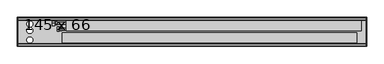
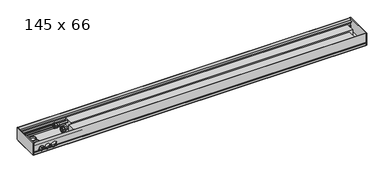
"""IFC4 building model written with IfcOpenShell, lengths in millimetres: proxy geometry, Mohlenhof_Внутрипольный конвектор_QSKM : 145 x 66."""

from ifc_helpers import new_model, si_unit, point, frame, frame_2d, origin, place, context, project, spatial, polyline, circle_curve, ellipse_curve, trimmed, segment, composite_curve, outline, extrude, source, transform, mapped, element, save
from ifc_brep_helpers import plane_surface, cylinder_surface, revolved_surface, advanced_brep


def proxy_145_x_66_e9fb857a(model_context):
    return source(origin(), model_context, "Body", "SolidModel", [
        extrude(outline(composite_curve([segment(trimmed(circle_curve(frame_2d((0.0, -223.5)), 4.5), [point((-4.5, -223.5))], [point((4.5, -223.5))], False, "CARTESIAN"), True, "CONTINUOUS"), segment(trimmed(circle_curve(frame_2d((0.0, -223.5)), 4.5), [point((4.5, -223.5))], [point((-4.5, -223.5))], False, "CARTESIAN"), True, "CONTINUOUS")], self_intersect=False)), frame((0.0, 0.0, -79.0), z_axis=(0.0, 0.0, 1.0), x_axis=(1.0, 0.0, 0.0)), (0.0, 0.0, 1.0), 7.0),
        extrude(outline(composite_curve([segment(trimmed(circle_curve(frame_2d((0.0, -223.5)), 4.0), [point((-4.0, -223.5))], [point((4.0, -223.5))], False, "CARTESIAN"), True, "CONTINUOUS"), segment(trimmed(circle_curve(frame_2d((0.0, -223.5)), 4.0), [point((4.0, -223.5))], [point((-4.0, -223.5))], False, "CARTESIAN"), True, "CONTINUOUS")], self_intersect=False)), frame((0.0, 0.0, -72.0), z_axis=(0.0, 0.0, 1.0), x_axis=(1.0, 0.0, 0.0)), (0.0, 0.0, 1.0), 1.5),
        extrude(outline(composite_curve([segment(trimmed(circle_curve(frame_2d((0.0, -121.5)), 4.5), [point((-4.5, -121.5))], [point((4.5, -121.5))], False, "CARTESIAN"), True, "CONTINUOUS"), segment(trimmed(circle_curve(frame_2d((0.0, -121.5)), 4.5), [point((4.5, -121.5))], [point((-4.5, -121.5))], False, "CARTESIAN"), True, "CONTINUOUS")], self_intersect=False)), frame((0.0, 0.0, -79.0), z_axis=(0.0, 0.0, 1.0), x_axis=(1.0, 0.0, 0.0)), (0.0, 0.0, 1.0), 7.0),
        extrude(outline(composite_curve([segment(trimmed(circle_curve(frame_2d((0.0, -121.5)), 4.0), [point((-4.0, -121.5))], [point((4.0, -121.5))], False, "CARTESIAN"), True, "CONTINUOUS"), segment(trimmed(circle_curve(frame_2d((0.0, -121.5)), 4.0), [point((4.0, -121.5))], [point((-4.0, -121.5))], False, "CARTESIAN"), True, "CONTINUOUS")], self_intersect=False)), frame((0.0, 0.0, -72.0), z_axis=(0.0, 0.0, 1.0), x_axis=(1.0, 0.0, 0.0)), (0.0, 0.0, 1.0), 1.5),
        advanced_brep(
        [(-665.0, -158.0, -47.5), (-665.0, -146.0, -47.5), (-665.0, -170.0, -47.5), (-652.5, -165.5, -47.5), (-652.5, -150.5, -47.5), (-652.5, -158.0, -47.5), (-660.0, -165.5, -47.5), (-660.0, -150.5, -47.5)],
        [
            (0, 1),
            (1, 2, circle_curve(frame((-665.0, -158.0, -47.5), z_axis=(-1.0, 0.0, 0.0), x_axis=(0.0, 1.0, 0.0)), 12.0)),
            (2, 0),
            (2, 1, circle_curve(frame((-665.0, -158.0, -47.5), z_axis=(-1.0, 0.0, 0.0), x_axis=(0.0, 1.0, 0.0)), 12.0)),
            (3, 4, circle_curve(frame((-652.5, -158.0, -47.5), z_axis=(1.0, 0.0, 0.0), x_axis=(0.0, 1.0, 0.0)), 7.5)),
            (4, 5),
            (5, 3),
            (4, 3, circle_curve(frame((-652.5, -158.0, -47.5), z_axis=(1.0, 0.0, 0.0), x_axis=(0.0, 1.0, 0.0)), 7.5)),
            (6, 7, circle_curve(frame((-660.0, -158.0, -47.5), z_axis=(1.0, 0.0, 0.0), x_axis=(0.0, 1.0, 0.0)), 7.5)),
            (7, 4),
            (3, 6),
            (7, 6, circle_curve(frame((-660.0, -158.0, -47.5), z_axis=(1.0, 0.0, 0.0), x_axis=(0.0, 1.0, 0.0)), 7.5)),
            (1, 7),
            (6, 2),
        ],
        [
            plane_surface(frame((-665.0, -158.0, -47.5), z_axis=(-1.0, 0.0, 0.0), x_axis=(0.0, 1.0, 0.0))),
            plane_surface(frame((-652.5, -158.0, -47.5), z_axis=(1.0, 0.0, 0.0), x_axis=(0.0, 1.0, 0.0))),
            cylinder_surface(frame((-665.0, -158.0, -47.5), z_axis=(-1.0, 0.0, 0.0), x_axis=(0.0, 1.0, 0.0)), 7.5),
            revolved_surface(polyline([(-660.0, -150.5, -47.5), (-665.0, -146.0, -47.5)]), (-665.0, -158.0, -47.5), (-1.0, 0.0, 0.0)),
        ],
        [
            (0, [[1, 2, 3]]),
            (0, [[-3, 4, -1]]),
            (1, [[5, 6, 7]]),
            (1, [[8, -7, -6]]),
            (2, [[9, 10, -5, 11]]),
            (2, [[12, -11, -8, -10]]),
            (3, [[-2, 13, -9, 14]]),
            (3, [[-4, -14, -12, -13]]),
        ],
    ),
        extrude(outline(polyline([(-158.0, -33.6435935), (-146.0, -40.5717968), (-146.0, -54.4282032), (-158.0, -61.3564065), (-170.0, -54.4282032), (-170.0, -40.5717968), (-158.0, -33.6435935)]), holes=[composite_curve([segment(trimmed(circle_curve(frame_2d((-158.0, -47.5)), 8.5), [point((-149.5, -47.5))], [point((-166.5, -47.5))], True, "CARTESIAN"), True, "CONTINUOUS"), segment(trimmed(circle_curve(frame_2d((-158.0, -47.5)), 8.5), [point((-166.5, -47.5))], [point((-149.5, -47.5))], True, "CARTESIAN"), True, "CONTINUOUS")], self_intersect=False)]), frame((-676.0, 0.0, 0.0), z_axis=(1.0, 0.0, 0.0), x_axis=(0.0, 1.0, 0.0)), (0.0, 0.0, 1.0), 11.0),
        advanced_brep(
        [(-689.0, -130.0, -34.5), (-689.0, -118.0, -34.5), (-689.0, -142.0, -34.5), (-676.5, -137.5, -34.5), (-676.5, -122.5, -34.5), (-676.5, -130.0, -34.5), (-684.0, -137.5, -34.5), (-684.0, -122.5, -34.5)],
        [
            (0, 1),
            (1, 2, circle_curve(frame((-689.0, -130.0, -34.5), z_axis=(-1.0, 0.0, 0.0), x_axis=(0.0, 1.0, 0.0)), 12.0)),
            (2, 0),
            (2, 1, circle_curve(frame((-689.0, -130.0, -34.5), z_axis=(-1.0, 0.0, 0.0), x_axis=(0.0, 1.0, 0.0)), 12.0)),
            (3, 4, circle_curve(frame((-676.5, -130.0, -34.5), z_axis=(1.0, 0.0, 0.0), x_axis=(0.0, 1.0, 0.0)), 7.5)),
            (4, 5),
            (5, 3),
            (4, 3, circle_curve(frame((-676.5, -130.0, -34.5), z_axis=(1.0, 0.0, 0.0), x_axis=(0.0, 1.0, 0.0)), 7.5)),
            (6, 7, circle_curve(frame((-684.0, -130.0, -34.5), z_axis=(1.0, 0.0, 0.0), x_axis=(0.0, 1.0, 0.0)), 7.5)),
            (7, 4),
            (3, 6),
            (7, 6, circle_curve(frame((-684.0, -130.0, -34.5), z_axis=(1.0, 0.0, 0.0), x_axis=(0.0, 1.0, 0.0)), 7.5)),
            (1, 7),
            (6, 2),
        ],
        [
            plane_surface(frame((-689.0, -130.0, -34.5), z_axis=(-1.0, 0.0, 0.0), x_axis=(0.0, 1.0, 0.0))),
            plane_surface(frame((-676.5, -130.0, -34.5), z_axis=(1.0, 0.0, 0.0), x_axis=(0.0, 1.0, 0.0))),
            cylinder_surface(frame((-689.0, -130.0, -34.5), z_axis=(-1.0, 0.0, 0.0), x_axis=(0.0, 1.0, 0.0)), 7.5),
            revolved_surface(polyline([(-684.0, -122.5, -34.5), (-689.0, -118.0, -34.5)]), (-689.0, -130.0, -34.5), (-1.0, 0.0, 0.0)),
        ],
        [
            (0, [[1, 2, 3]]),
            (0, [[-3, 4, -1]]),
            (1, [[5, 6, 7]]),
            (1, [[8, -7, -6]]),
            (2, [[9, 10, -5, 11]]),
            (2, [[12, -11, -8, -10]]),
            (3, [[-2, 13, -9, 14]]),
            (3, [[-4, -14, -12, -13]]),
        ],
    ),
        extrude(outline(polyline([(-130.0, -20.6435935), (-118.0, -27.5717968), (-118.0, -41.4282032), (-130.0, -48.3564065), (-142.0, -41.4282032), (-142.0, -27.5717968), (-130.0, -20.6435935)]), holes=[composite_curve([segment(trimmed(circle_curve(frame_2d((-130.0, -34.5)), 8.5), [point((-121.5, -34.5))], [point((-138.5, -34.5))], True, "CARTESIAN"), True, "CONTINUOUS"), segment(trimmed(circle_curve(frame_2d((-130.0, -34.5)), 8.5), [point((-138.5, -34.5))], [point((-121.5, -34.5))], True, "CARTESIAN"), True, "CONTINUOUS")], self_intersect=False)]), frame((-700.0, 0.0, 0.0), z_axis=(1.0, 0.0, 0.0), x_axis=(0.0, 1.0, 0.0)), (0.0, 0.0, 1.0), 11.0),
        extrude(outline(composite_curve([segment(trimmed(circle_curve(frame_2d((-850.0, -223.5)), 4.5), [point((-854.5, -223.5))], [point((-845.5, -223.5))], False, "CARTESIAN"), True, "CONTINUOUS"), segment(trimmed(circle_curve(frame_2d((-850.0, -223.5)), 4.5), [point((-845.5, -223.5))], [point((-854.5, -223.5))], False, "CARTESIAN"), True, "CONTINUOUS")], self_intersect=False)), frame((0.0, 0.0, -79.0), z_axis=(0.0, 0.0, 1.0), x_axis=(1.0, 0.0, 0.0)), (0.0, 0.0, 1.0), 7.0),
        extrude(outline(composite_curve([segment(trimmed(circle_curve(frame_2d((-850.0, -223.5)), 4.0), [point((-854.0, -223.5))], [point((-846.0, -223.5))], False, "CARTESIAN"), True, "CONTINUOUS"), segment(trimmed(circle_curve(frame_2d((-850.0, -223.5)), 4.0), [point((-846.0, -223.5))], [point((-854.0, -223.5))], False, "CARTESIAN"), True, "CONTINUOUS")], self_intersect=False)), frame((0.0, 0.0, -72.0), z_axis=(0.0, 0.0, 1.0), x_axis=(1.0, 0.0, 0.0)), (0.0, 0.0, 1.0), 1.5),
        extrude(outline(composite_curve([segment(trimmed(circle_curve(frame_2d((-850.0, -121.5)), 4.5), [point((-854.5, -121.5))], [point((-845.5, -121.5))], False, "CARTESIAN"), True, "CONTINUOUS"), segment(trimmed(circle_curve(frame_2d((-850.0, -121.5)), 4.5), [point((-845.5, -121.5))], [point((-854.5, -121.5))], False, "CARTESIAN"), True, "CONTINUOUS")], self_intersect=False)), frame((0.0, 0.0, -79.0), z_axis=(0.0, 0.0, 1.0), x_axis=(1.0, 0.0, 0.0)), (0.0, 0.0, 1.0), 7.0),
        extrude(outline(composite_curve([segment(trimmed(circle_curve(frame_2d((-850.0, -121.5)), 4.0), [point((-854.0, -121.5))], [point((-846.0, -121.5))], False, "CARTESIAN"), True, "CONTINUOUS"), segment(trimmed(circle_curve(frame_2d((-850.0, -121.5)), 4.0), [point((-846.0, -121.5))], [point((-854.0, -121.5))], False, "CARTESIAN"), True, "CONTINUOUS")], self_intersect=False)), frame((0.0, 0.0, -72.0), z_axis=(0.0, 0.0, 1.0), x_axis=(1.0, 0.0, 0.0)), (0.0, 0.0, 1.0), 1.5),
        extrude(outline(composite_curve([segment(trimmed(circle_curve(frame_2d((850.0, -223.5)), 4.5), [point((845.5, -223.5))], [point((854.5, -223.5))], False, "CARTESIAN"), True, "CONTINUOUS"), segment(trimmed(circle_curve(frame_2d((850.0, -223.5)), 4.5), [point((854.5, -223.5))], [point((845.5, -223.5))], False, "CARTESIAN"), True, "CONTINUOUS")], self_intersect=False)), frame((0.0, 0.0, -79.0), z_axis=(0.0, 0.0, 1.0), x_axis=(1.0, 0.0, 0.0)), (0.0, 0.0, 1.0), 7.0),
        extrude(outline(composite_curve([segment(trimmed(circle_curve(frame_2d((850.0, -223.5)), 4.0), [point((846.0, -223.5))], [point((854.0, -223.5))], False, "CARTESIAN"), True, "CONTINUOUS"), segment(trimmed(circle_curve(frame_2d((850.0, -223.5)), 4.0), [point((854.0, -223.5))], [point((846.0, -223.5))], False, "CARTESIAN"), True, "CONTINUOUS")], self_intersect=False)), frame((0.0, 0.0, -72.0), z_axis=(0.0, 0.0, 1.0), x_axis=(1.0, 0.0, 0.0)), (0.0, 0.0, 1.0), 1.5),
        extrude(outline(composite_curve([segment(trimmed(circle_curve(frame_2d((850.0, -121.5)), 4.5), [point((845.5, -121.5))], [point((854.5, -121.5))], False, "CARTESIAN"), True, "CONTINUOUS"), segment(trimmed(circle_curve(frame_2d((850.0, -121.5)), 4.5), [point((854.5, -121.5))], [point((845.5, -121.5))], False, "CARTESIAN"), True, "CONTINUOUS")], self_intersect=False)), frame((0.0, 0.0, -79.0), z_axis=(0.0, 0.0, 1.0), x_axis=(1.0, 0.0, 0.0)), (0.0, 0.0, 1.0), 7.0),
        extrude(outline(composite_curve([segment(trimmed(circle_curve(frame_2d((850.0, -121.5)), 4.0), [point((846.0, -121.5))], [point((854.0, -121.5))], False, "CARTESIAN"), True, "CONTINUOUS"), segment(trimmed(circle_curve(frame_2d((850.0, -121.5)), 4.0), [point((854.0, -121.5))], [point((846.0, -121.5))], False, "CARTESIAN"), True, "CONTINUOUS")], self_intersect=False)), frame((0.0, 0.0, -72.0), z_axis=(0.0, 0.0, 1.0), x_axis=(1.0, 0.0, 0.0)), (0.0, 0.0, 1.0), 1.5),
        extrude(outline(polyline([(825.0, -175.87), (825.0, -227.18), (-650.0, -227.18), (-650.0, -175.87), (825.0, -175.87)])), frame((0.0, 0.0, -62.5), z_axis=(0.0, 0.0, 1.0), x_axis=(1.0, 0.0, 0.0)), (0.0, 0.0, 1.0), 43.62),
        extrude(outline(composite_curve([segment(trimmed(circle_curve(frame_2d((-158.0, -47.5)), 5.0), [point((-163.0, -47.5))], [point((-153.0, -47.5))], False, "CARTESIAN"), True, "CONTINUOUS"), segment(trimmed(circle_curve(frame_2d((-158.0, -47.5)), 5.0), [point((-153.0, -47.5))], [point((-163.0, -47.5))], False, "CARTESIAN"), True, "CONTINUOUS")], self_intersect=False)), frame((-676.0, 0.0, 0.0), z_axis=(1.0, 0.0, 0.0), x_axis=(0.0, 1.0, 0.0)), (0.0, 0.0, 1.0), 46.0),
        extrude(outline(composite_curve([segment(trimmed(circle_curve(frame_2d((-130.0, -34.5)), 5.0), [point((-135.0, -34.5))], [point((-125.0, -34.5))], False, "CARTESIAN"), True, "CONTINUOUS"), segment(trimmed(circle_curve(frame_2d((-130.0, -34.5)), 5.0), [point((-125.0, -34.5))], [point((-135.0, -34.5))], False, "CARTESIAN"), True, "CONTINUOUS")], self_intersect=False)), frame((-700.0, 0.0, 0.0), z_axis=(1.0, 0.0, 0.0), x_axis=(0.0, 1.0, 0.0)), (0.0, 0.0, 1.0), 70.0),
        advanced_brep(
        [(873.0, -245.0, -48.5473602), (873.0, -243.5, -49.2468216), (873.0, -242.5, -49.2468216), (873.0, -242.5, -46.0008038), (873.0, -240.0, -46.0008038), (873.0, -240.0, -56.5008038), (873.0, -242.5, -56.5008038), (873.0, -242.5, -53.2468216), (873.0, -243.5, -53.2468216), (873.0, -245.0, -53.9462831), (873.0, -245.0, -66.5), (873.0, -241.0, -66.5), (873.0, -241.0, -65.2), (873.0, -243.0, -65.2), (873.0, -243.0, -62.5), (873.0, -232.0, -62.5), (873.0, -232.0, -54.9172677), (873.0, -233.4172677, -53.5), (873.0, -237.0, -53.5), (873.0, -237.0, -45.91), (873.0, -239.0, -43.91), (873.0, -239.0, -39.5), (873.0, -240.0, -39.5), (873.0, -240.0, -43.5), (873.0, -242.4956439, -43.5), (873.0, -242.4956439, -23.0), (873.0, -240.0, -23.0), (873.0, -240.0, -27.0), (873.0, -239.0, -27.0), (873.0, -239.0, -17.0), (873.0, -233.3956439, -17.0), (873.0, -233.3956439, -15.0), (873.0, -243.4, -15.0), (873.0, -243.4, 0.0), (873.0, -245.0, 0.0), (-873.0, -245.0, -48.5473602), (-873.0, -245.0, 0.0), (-873.0, -243.4, 0.0), (-873.0, -243.4, -15.0), (-873.0, -233.3956439, -15.0), (-873.0, -233.3956439, -17.0), (-873.0, -239.0, -17.0), (-873.0, -239.0, -27.0), (-873.0, -240.0, -27.0), (-873.0, -240.0, -23.0), (-873.0, -242.4956439, -23.0), (-873.0, -242.4956439, -43.5), (-873.0, -240.0, -43.5), (-873.0, -240.0, -39.5), (-873.0, -239.0, -39.5), (-873.0, -239.0, -43.91), (-873.0, -237.0, -45.91), (-873.0, -237.0, -53.5), (-873.0, -233.4172677, -53.5), (-873.0, -232.0, -54.9172677), (-873.0, -232.0, -62.5), (-873.0, -243.0, -62.5), (-873.0, -243.0, -65.2), (-873.0, -241.0, -65.2), (-873.0, -241.0, -66.5), (-873.0, -245.0, -66.5), (-873.0, -245.0, -53.9462831), (-873.0, -243.5, -53.2468216), (-873.0, -242.5, -53.2468216), (-873.0, -242.5, -56.5008038), (-873.0, -240.0, -56.5008038), (-873.0, -240.0, -46.0008038), (-873.0, -242.5, -46.0008038), (-873.0, -242.5, -49.2468216), (-873.0, -243.5, -49.2468216), (-753.7585985, -245.0, -48.5473602), (-754.155283, -243.5, -49.2468216), (-845.844717, -243.5, -49.2468216), (-846.2414015, -245.0, -48.5473602), (-813.2414015, -245.0, -48.5473602), (-819.7585985, -245.0, -48.5473602), (-820.155283, -243.5, -49.2468216), (-812.844717, -243.5, -49.2468216), (-780.2414015, -245.0, -48.5473602), (-786.7585985, -245.0, -48.5473602), (-787.155283, -243.5, -49.2468216), (-779.844717, -243.5, -49.2468216), (-754.155283, -242.5, -49.2468216), (-845.844717, -242.5, -49.2468216), (-820.155283, -242.5, -49.2468216), (-812.844717, -242.5, -49.2468216), (-787.155283, -242.5, -49.2468216), (-779.844717, -242.5, -49.2468216), (-752.6911648, -242.5, -46.0008038), (-847.3088352, -242.5, -46.0008038), (-818.6911648, -242.5, -46.0008038), (-814.3088352, -242.5, -46.0008038), (-785.6911648, -242.5, -46.0008038), (-781.3088352, -242.5, -46.0008038), (-752.6911648, -240.0, -46.0008038), (-847.3088352, -240.0, -46.0008038), (-818.6911648, -240.0, -46.0008038), (-814.3088352, -240.0, -46.0008038), (-785.6911648, -240.0, -46.0008038), (-781.3088352, -240.0, -46.0008038), (-842.328032, -242.5, -53.2468216), (-823.671968, -242.5, -53.2468216), (-809.328032, -242.5, -53.2468216), (-790.671968, -242.5, -53.2468216), (-776.328032, -242.5, -53.2468216), (-757.671968, -242.5, -53.2468216), (-757.671968, -243.5, -53.2468216), (-842.328032, -243.5, -53.2468216), (-823.671968, -243.5, -53.2468216), (-809.328032, -243.5, -53.2468216), (-790.671968, -243.5, -53.2468216), (-776.328032, -243.5, -53.2468216), (-758.6280208, -245.0, -53.9462831), (-841.3719792, -245.0, -53.9462831), (-824.6280208, -245.0, -53.9462831), (-808.3719792, -245.0, -53.9462831), (-791.6280208, -245.0, -53.9462831), (-775.3719792, -245.0, -53.9462831), (-839.7064841, -232.0, -54.9172677), (-826.2935159, -232.0, -54.9172677), (-806.7064841, -232.0, -54.9172677), (-793.2935159, -232.0, -54.9172677), (-773.7064841, -232.0, -54.9172677), (-760.2935159, -232.0, -54.9172677), (-758.0, -233.4172677, -53.5), (-842.0, -233.4172677, -53.5), (-824.0, -233.4172677, -53.5), (-809.0, -233.4172677, -53.5), (-791.0, -233.4172677, -53.5), (-776.0, -233.4172677, -53.5), (-758.0, -237.0, -53.5), (-842.0, -237.0, -53.5), (-824.0, -237.0, -53.5), (-809.0, -237.0, -53.5), (-791.0, -237.0, -53.5), (-776.0, -237.0, -53.5), (-752.6629187, -237.0, -45.91), (-847.3370813, -237.0, -45.91), (-818.6629187, -237.0, -45.91), (-814.3370813, -237.0, -45.91), (-785.6629187, -237.0, -45.91), (-781.3370813, -237.0, -45.91), (-752.1948691, -239.0, -43.91), (-847.8051309, -239.0, -43.91), (-818.1948691, -239.0, -43.91), (-814.8051309, -239.0, -43.91), (-785.1948691, -239.0, -43.91), (-781.8051309, -239.0, -43.91), (-752.0, -239.0, -41.5), (-752.1339313, -239.0, -39.5), (-847.8660687, -239.0, -39.5), (-848.0, -239.0, -41.5), (-818.0, -239.0, -41.5), (-818.1339313, -239.0, -39.5), (-814.8660687, -239.0, -39.5), (-815.0, -239.0, -41.5), (-785.0, -239.0, -41.5), (-785.1339313, -239.0, -39.5), (-781.8660687, -239.0, -39.5), (-782.0, -239.0, -41.5), (-752.1339313, -240.0, -39.5), (-847.8660687, -240.0, -39.5), (-818.1339313, -240.0, -39.5), (-814.8660687, -240.0, -39.5), (-785.1339313, -240.0, -39.5), (-781.8660687, -240.0, -39.5), (-752.0, -240.0, -41.5), (-752.1339313, -240.0, -43.5), (-847.8660687, -240.0, -43.5), (-848.0, -240.0, -41.5), (-818.0, -240.0, -41.5), (-818.1339313, -240.0, -43.5), (-814.8660687, -240.0, -43.5), (-815.0, -240.0, -41.5), (-785.0, -240.0, -41.5), (-785.1339313, -240.0, -43.5), (-781.8660687, -240.0, -43.5), (-782.0, -240.0, -41.5), (-752.1339313, -242.4956439, -43.5), (-847.8660687, -242.4956439, -43.5), (-818.1339313, -242.4956439, -43.5), (-814.8660687, -242.4956439, -43.5), (-785.1339313, -242.4956439, -43.5), (-781.8660687, -242.4956439, -43.5), (-752.0, -242.4956439, -41.5), (-782.0, -242.4956439, -41.5), (-785.0, -242.4956439, -41.5), (-815.0, -242.4956439, -41.5), (-818.0, -242.4956439, -41.5), (-848.0, -242.4956439, -41.5), (-836.8405729, -240.0, -27.0), (-829.1594271, -240.0, -27.0), (-803.8405729, -240.0, -27.0), (-796.1594271, -240.0, -27.0), (-770.8405729, -240.0, -27.0), (-763.1594271, -240.0, -27.0), (-763.1594271, -239.0, -27.0), (-836.8405729, -239.0, -27.0), (-829.1594271, -239.0, -27.0), (-803.8405729, -239.0, -27.0), (-796.1594271, -239.0, -27.0), (-770.8405729, -239.0, -27.0), (-848.0, -245.0, -41.5), (-818.0, -245.0, -41.5), (-815.0, -245.0, -41.5), (-785.0, -245.0, -41.5), (-782.0, -245.0, -41.5), (-752.0, -245.0, -41.5)],
        [
            (0, 1),
            (1, 2),
            (2, 3),
            (3, 4),
            (4, 5),
            (5, 6),
            (6, 7),
            (7, 8),
            (8, 9),
            (9, 10),
            (10, 11),
            (11, 12),
            (12, 13),
            (13, 14),
            (14, 15),
            (15, 16),
            (16, 17),
            (17, 18),
            (18, 19),
            (19, 20),
            (20, 21),
            (21, 22),
            (22, 23),
            (23, 24),
            (24, 25),
            (25, 26),
            (26, 27),
            (27, 28),
            (28, 29),
            (29, 30),
            (30, 31),
            (31, 32),
            (32, 33),
            (33, 34),
            (34, 0),
            (35, 36),
            (36, 37),
            (37, 38),
            (38, 39),
            (39, 40),
            (40, 41),
            (41, 42),
            (42, 43),
            (43, 44),
            (44, 45),
            (45, 46),
            (46, 47),
            (47, 48),
            (48, 49),
            (49, 50),
            (50, 51),
            (51, 52),
            (52, 53),
            (53, 54),
            (54, 55),
            (55, 56),
            (56, 57),
            (57, 58),
            (58, 59),
            (59, 60),
            (60, 61),
            (61, 62),
            (62, 63),
            (63, 64),
            (64, 65),
            (65, 66),
            (66, 67),
            (67, 68),
            (68, 69),
            (69, 35),
            (0, 70),
            (70, 71, ellipse_curve(frame((-767.0, -260.1131126, -41.5), z_axis=(0.0, 0.42261826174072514, 0.9063077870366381), x_axis=(0.0, -0.9063077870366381, 0.42261826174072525)), 35.4930237, 15.0)),
            (71, 1),
            (69, 72),
            (72, 73, ellipse_curve(frame((-833.0, -260.1131126, -41.5), z_axis=(0.0, 0.42261826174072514, 0.9063077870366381), x_axis=(0.0, -0.9063077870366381, 0.42261826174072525)), 35.4930237, 15.0)),
            (73, 35),
            (74, 75),
            (75, 76, ellipse_curve(frame((-833.0, -260.1131126, -41.5), z_axis=(0.0, 0.42261826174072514, 0.9063077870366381), x_axis=(0.0, -0.9063077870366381, 0.42261826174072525)), 35.4930237, 15.0)),
            (76, 77),
            (77, 74, ellipse_curve(frame((-800.0, -260.1131126, -41.5), z_axis=(0.0, 0.42261826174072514, 0.9063077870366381), x_axis=(0.0, -0.9063077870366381, 0.42261826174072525)), 35.4930237, 15.0)),
            (78, 79),
            (79, 80, ellipse_curve(frame((-800.0, -260.1131126, -41.5), z_axis=(0.0, 0.42261826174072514, 0.9063077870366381), x_axis=(0.0, -0.9063077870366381, 0.42261826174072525)), 35.4930237, 15.0)),
            (80, 81),
            (81, 78, ellipse_curve(frame((-767.0, -260.1131126, -41.5), z_axis=(0.0, 0.42261826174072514, 0.9063077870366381), x_axis=(0.0, -0.9063077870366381, 0.42261826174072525)), 35.4930237, 15.0)),
            (71, 82),
            (82, 2),
            (68, 83),
            (83, 72),
            (76, 84),
            (84, 85),
            (85, 77),
            (80, 86),
            (86, 87),
            (87, 81),
            (82, 88, circle_curve(frame((-767.0, -242.5, -41.5), z_axis=(0.0, -1.0, 0.0), x_axis=(1.0, 0.0, 0.0)), 15.0)),
            (88, 3),
            (67, 89),
            (89, 83, circle_curve(frame((-833.0, -242.5, -41.5), z_axis=(0.0, -1.0, 0.0), x_axis=(1.0, 0.0, 0.0)), 15.0)),
            (84, 90, circle_curve(frame((-833.0, -242.5, -41.5), z_axis=(0.0, -1.0, 0.0), x_axis=(1.0, 0.0, 0.0)), 15.0)),
            (90, 91),
            (91, 85, circle_curve(frame((-800.0, -242.5, -41.5), z_axis=(0.0, -1.0, 0.0), x_axis=(1.0, 0.0, 0.0)), 15.0)),
            (86, 92, circle_curve(frame((-800.0, -242.5, -41.5), z_axis=(0.0, -1.0, 0.0), x_axis=(1.0, 0.0, 0.0)), 15.0)),
            (92, 93),
            (93, 87, circle_curve(frame((-767.0, -242.5, -41.5), z_axis=(0.0, -1.0, 0.0), x_axis=(1.0, 0.0, 0.0)), 15.0)),
            (88, 94),
            (94, 4),
            (66, 95),
            (95, 89),
            (90, 96),
            (96, 97),
            (97, 91),
            (92, 98),
            (98, 99),
            (99, 93),
            (94, 99, circle_curve(frame((-767.0, -240.0, -41.5), z_axis=(0.0, 1.0, 0.0), x_axis=(1.0, 0.0, 0.0)), 15.0)),
            (98, 97, circle_curve(frame((-800.0, -240.0, -41.5), z_axis=(0.0, 1.0, 0.0), x_axis=(1.0, 0.0, 0.0)), 15.0)),
            (96, 95, circle_curve(frame((-833.0, -240.0, -41.5), z_axis=(0.0, 1.0, 0.0), x_axis=(1.0, 0.0, 0.0)), 15.0)),
            (65, 5),
            (64, 6),
            (63, 100),
            (100, 101, circle_curve(frame((-833.0, -242.5, -41.5), z_axis=(0.0, -1.0, 0.0), x_axis=(1.0, 0.0, 0.0)), 15.0)),
            (101, 102),
            (102, 103, circle_curve(frame((-800.0, -242.5, -41.5), z_axis=(0.0, -1.0, 0.0), x_axis=(1.0, 0.0, 0.0)), 15.0)),
            (103, 104),
            (104, 105, circle_curve(frame((-767.0, -242.5, -41.5), z_axis=(0.0, -1.0, 0.0), x_axis=(1.0, 0.0, 0.0)), 15.0)),
            (105, 7),
            (105, 106),
            (106, 8),
            (62, 107),
            (107, 100),
            (101, 108),
            (108, 109),
            (109, 102),
            (103, 110),
            (110, 111),
            (111, 104),
            (106, 112, ellipse_curve(frame((-767.0, -218.3088597, -41.5), z_axis=(0.0, 0.42261826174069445, -0.9063077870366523), x_axis=(0.0, -0.9063077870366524, -0.42261826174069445)), 35.4930237, 15.0)),
            (112, 9),
            (61, 113),
            (113, 107, ellipse_curve(frame((-833.0, -218.3088597, -41.5), z_axis=(0.0, 0.42261826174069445, -0.9063077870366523), x_axis=(0.0, -0.9063077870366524, -0.42261826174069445)), 35.4930237, 15.0)),
            (108, 114, ellipse_curve(frame((-833.0, -218.3088597, -41.5), z_axis=(0.0, 0.42261826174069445, -0.9063077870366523), x_axis=(0.0, -0.9063077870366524, -0.42261826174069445)), 35.4930237, 15.0)),
            (114, 115),
            (115, 109, ellipse_curve(frame((-800.0, -218.3088597, -41.5), z_axis=(0.0, 0.42261826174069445, -0.9063077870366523), x_axis=(0.0, -0.9063077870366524, -0.42261826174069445)), 35.4930237, 15.0)),
            (110, 116, ellipse_curve(frame((-800.0, -218.3088597, -41.5), z_axis=(0.0, 0.42261826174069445, -0.9063077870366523), x_axis=(0.0, -0.9063077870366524, -0.42261826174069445)), 35.4930237, 15.0)),
            (116, 117),
            (117, 111, ellipse_curve(frame((-767.0, -218.3088597, -41.5), z_axis=(0.0, 0.42261826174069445, -0.9063077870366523), x_axis=(0.0, -0.9063077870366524, -0.42261826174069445)), 35.4930237, 15.0)),
            (112, 117, circle_curve(frame((-767.0, -245.0, -41.5), z_axis=(0.0, 1.0, 0.0), x_axis=(1.0, 0.0, 0.0)), 15.0)),
            (116, 115, circle_curve(frame((-800.0, -245.0, -41.5), z_axis=(0.0, 1.0, 0.0), x_axis=(1.0, 0.0, 0.0)), 15.0)),
            (114, 113, circle_curve(frame((-833.0, -245.0, -41.5), z_axis=(0.0, 1.0, 0.0), x_axis=(1.0, 0.0, 0.0)), 15.0)),
            (60, 10),
            (59, 11),
            (58, 12),
            (57, 13),
            (56, 14),
            (55, 15),
            (54, 118),
            (118, 119, circle_curve(frame((-833.0, -232.0, -41.5), z_axis=(0.0, -1.0, 0.0), x_axis=(1.0, 0.0, 0.0)), 15.0)),
            (119, 120),
            (120, 121, circle_curve(frame((-800.0, -232.0, -41.5), z_axis=(0.0, -1.0, 0.0), x_axis=(1.0, 0.0, 0.0)), 15.0)),
            (121, 122),
            (122, 123, circle_curve(frame((-767.0, -232.0, -41.5), z_axis=(0.0, -1.0, 0.0), x_axis=(1.0, 0.0, 0.0)), 15.0)),
            (123, 16),
            (123, 124, ellipse_curve(frame((-767.0, -245.4172677, -41.5), z_axis=(0.0, -0.7071067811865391, -0.707106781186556), x_axis=(0.0, -0.7071067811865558, 0.7071067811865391)), 21.2132034, 15.0)),
            (124, 17),
            (53, 125),
            (125, 118, ellipse_curve(frame((-833.0, -245.4172677, -41.5), z_axis=(0.0, -0.7071067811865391, -0.707106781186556), x_axis=(0.0, -0.7071067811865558, 0.7071067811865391)), 21.2132034, 15.0)),
            (119, 126, ellipse_curve(frame((-833.0, -245.4172677, -41.5), z_axis=(0.0, -0.7071067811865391, -0.707106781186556), x_axis=(0.0, -0.7071067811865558, 0.7071067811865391)), 21.2132034, 15.0)),
            (126, 127),
            (127, 120, ellipse_curve(frame((-800.0, -245.4172677, -41.5), z_axis=(0.0, -0.7071067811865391, -0.707106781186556), x_axis=(0.0, -0.7071067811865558, 0.7071067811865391)), 21.2132034, 15.0)),
            (121, 128, ellipse_curve(frame((-800.0, -245.4172677, -41.5), z_axis=(0.0, -0.7071067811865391, -0.707106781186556), x_axis=(0.0, -0.7071067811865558, 0.7071067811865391)), 21.2132034, 15.0)),
            (128, 129),
            (129, 122, ellipse_curve(frame((-767.0, -245.4172677, -41.5), z_axis=(0.0, -0.7071067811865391, -0.707106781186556), x_axis=(0.0, -0.7071067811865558, 0.7071067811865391)), 21.2132034, 15.0)),
            (124, 130),
            (130, 18),
            (52, 131),
            (131, 125),
            (126, 132),
            (132, 133),
            (133, 127),
            (128, 134),
            (134, 135),
            (135, 129),
            (130, 136, circle_curve(frame((-767.0, -237.0, -41.5), z_axis=(0.0, -1.0, 0.0), x_axis=(1.0, 0.0, 0.0)), 15.0)),
            (136, 19),
            (51, 137),
            (137, 131, circle_curve(frame((-833.0, -237.0, -41.5), z_axis=(0.0, -1.0, 0.0), x_axis=(1.0, 0.0, 0.0)), 15.0)),
            (132, 138, circle_curve(frame((-833.0, -237.0, -41.5), z_axis=(0.0, -1.0, 0.0), x_axis=(1.0, 0.0, 0.0)), 15.0)),
            (138, 139),
            (139, 133, circle_curve(frame((-800.0, -237.0, -41.5), z_axis=(0.0, -1.0, 0.0), x_axis=(1.0, 0.0, 0.0)), 15.0)),
            (134, 140, circle_curve(frame((-800.0, -237.0, -41.5), z_axis=(0.0, -1.0, 0.0), x_axis=(1.0, 0.0, 0.0)), 15.0)),
            (140, 141),
            (141, 135, circle_curve(frame((-767.0, -237.0, -41.5), z_axis=(0.0, -1.0, 0.0), x_axis=(1.0, 0.0, 0.0)), 15.0)),
            (136, 142, ellipse_curve(frame((-767.0, -241.41, -41.5), z_axis=(0.0, -0.7071067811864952, -0.7071067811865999), x_axis=(0.0, -0.7071067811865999, 0.7071067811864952)), 21.2132034, 15.0)),
            (142, 20),
            (50, 143),
            (143, 137, ellipse_curve(frame((-833.0, -241.41, -41.5), z_axis=(0.0, -0.7071067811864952, -0.7071067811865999), x_axis=(0.0, -0.7071067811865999, 0.7071067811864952)), 21.2132034, 15.0)),
            (138, 144, ellipse_curve(frame((-833.0, -241.41, -41.5), z_axis=(0.0, -0.7071067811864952, -0.7071067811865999), x_axis=(0.0, -0.7071067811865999, 0.7071067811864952)), 21.2132034, 15.0)),
            (144, 145),
            (145, 139, ellipse_curve(frame((-800.0, -241.41, -41.5), z_axis=(0.0, -0.7071067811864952, -0.7071067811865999), x_axis=(0.0, -0.7071067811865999, 0.7071067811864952)), 21.2132034, 15.0)),
            (140, 146, ellipse_curve(frame((-800.0, -241.41, -41.5), z_axis=(0.0, -0.7071067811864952, -0.7071067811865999), x_axis=(0.0, -0.7071067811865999, 0.7071067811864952)), 21.2132034, 15.0)),
            (146, 147),
            (147, 141, ellipse_curve(frame((-767.0, -241.41, -41.5), z_axis=(0.0, -0.7071067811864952, -0.7071067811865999), x_axis=(0.0, -0.7071067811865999, 0.7071067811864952)), 21.2132034, 15.0)),
            (142, 148, circle_curve(frame((-767.0, -239.0, -41.5), z_axis=(0.0, -1.0, 0.0), x_axis=(1.0, 0.0, 0.0)), 15.0)),
            (148, 149, circle_curve(frame((-767.0, -239.0, -41.5), z_axis=(0.0, -1.0, 0.0), x_axis=(1.0, 0.0, 0.0)), 15.0)),
            (149, 21),
            (49, 150),
            (150, 151, circle_curve(frame((-833.0, -239.0, -41.5), z_axis=(0.0, -1.0, 0.0), x_axis=(1.0, 0.0, 0.0)), 15.0)),
            (151, 143, circle_curve(frame((-833.0, -239.0, -41.5), z_axis=(0.0, -1.0, 0.0), x_axis=(1.0, 0.0, 0.0)), 15.0)),
            (144, 152, circle_curve(frame((-833.0, -239.0, -41.5), z_axis=(0.0, -1.0, 0.0), x_axis=(1.0, 0.0, 0.0)), 15.0)),
            (152, 153, circle_curve(frame((-833.0, -239.0, -41.5), z_axis=(0.0, -1.0, 0.0), x_axis=(1.0, 0.0, 0.0)), 15.0)),
            (153, 154),
            (154, 155, circle_curve(frame((-800.0, -239.0, -41.5), z_axis=(0.0, -1.0, 0.0), x_axis=(1.0, 0.0, 0.0)), 15.0)),
            (155, 145, circle_curve(frame((-800.0, -239.0, -41.5), z_axis=(0.0, -1.0, 0.0), x_axis=(1.0, 0.0, 0.0)), 15.0)),
            (146, 156, circle_curve(frame((-800.0, -239.0, -41.5), z_axis=(0.0, -1.0, 0.0), x_axis=(1.0, 0.0, 0.0)), 15.0)),
            (156, 157, circle_curve(frame((-800.0, -239.0, -41.5), z_axis=(0.0, -1.0, 0.0), x_axis=(1.0, 0.0, 0.0)), 15.0)),
            (157, 158),
            (158, 159, circle_curve(frame((-767.0, -239.0, -41.5), z_axis=(0.0, -1.0, 0.0), x_axis=(1.0, 0.0, 0.0)), 15.0)),
            (159, 147, circle_curve(frame((-767.0, -239.0, -41.5), z_axis=(0.0, -1.0, 0.0), x_axis=(1.0, 0.0, 0.0)), 15.0)),
            (149, 160),
            (160, 22),
            (48, 161),
            (161, 150),
            (153, 162),
            (162, 163),
            (163, 154),
            (157, 164),
            (164, 165),
            (165, 158),
            (160, 166, circle_curve(frame((-767.0, -240.0, -41.5), z_axis=(0.0, 1.0, 0.0), x_axis=(1.0, 0.0, 0.0)), 15.0)),
            (166, 167, circle_curve(frame((-767.0, -240.0, -41.5), z_axis=(0.0, 1.0, 0.0), x_axis=(1.0, 0.0, 0.0)), 15.0)),
            (167, 23),
            (47, 168),
            (168, 169, circle_curve(frame((-833.0, -240.0, -41.5), z_axis=(0.0, 1.0, 0.0), x_axis=(1.0, 0.0, 0.0)), 15.0)),
            (169, 161, circle_curve(frame((-833.0, -240.0, -41.5), z_axis=(0.0, 1.0, 0.0), x_axis=(1.0, 0.0, 0.0)), 15.0)),
            (162, 170, circle_curve(frame((-833.0, -240.0, -41.5), z_axis=(0.0, 1.0, 0.0), x_axis=(1.0, 0.0, 0.0)), 15.0)),
            (170, 171, circle_curve(frame((-833.0, -240.0, -41.5), z_axis=(0.0, 1.0, 0.0), x_axis=(1.0, 0.0, 0.0)), 15.0)),
            (171, 172),
            (172, 173, circle_curve(frame((-800.0, -240.0, -41.5), z_axis=(0.0, 1.0, 0.0), x_axis=(1.0, 0.0, 0.0)), 15.0)),
            (173, 163, circle_curve(frame((-800.0, -240.0, -41.5), z_axis=(0.0, 1.0, 0.0), x_axis=(1.0, 0.0, 0.0)), 15.0)),
            (164, 174, circle_curve(frame((-800.0, -240.0, -41.5), z_axis=(0.0, 1.0, 0.0), x_axis=(1.0, 0.0, 0.0)), 15.0)),
            (174, 175, circle_curve(frame((-800.0, -240.0, -41.5), z_axis=(0.0, 1.0, 0.0), x_axis=(1.0, 0.0, 0.0)), 15.0)),
            (175, 176),
            (176, 177, circle_curve(frame((-767.0, -240.0, -41.5), z_axis=(0.0, 1.0, 0.0), x_axis=(1.0, 0.0, 0.0)), 15.0)),
            (177, 165, circle_curve(frame((-767.0, -240.0, -41.5), z_axis=(0.0, 1.0, 0.0), x_axis=(1.0, 0.0, 0.0)), 15.0)),
            (167, 178),
            (178, 24),
            (46, 179),
            (179, 168),
            (171, 180),
            (180, 181),
            (181, 172),
            (175, 182),
            (182, 183),
            (183, 176),
            (178, 184, circle_curve(frame((-767.0, -242.4956439, -41.5), z_axis=(0.0, -1.0, 0.0), x_axis=(1.0, 0.0, 0.0)), 15.0)),
            (184, 185, circle_curve(frame((-767.0, -242.4956439, -41.5), z_axis=(0.0, -1.0, 0.0), x_axis=(1.0, 0.0, 0.0)), 15.0)),
            (185, 183, circle_curve(frame((-767.0, -242.4956439, -41.5), z_axis=(0.0, -1.0, 0.0), x_axis=(1.0, 0.0, 0.0)), 15.0)),
            (182, 186, circle_curve(frame((-800.0, -242.4956439, -41.5), z_axis=(0.0, -1.0, 0.0), x_axis=(1.0, 0.0, 0.0)), 15.0)),
            (186, 187, circle_curve(frame((-800.0, -242.4956439, -41.5), z_axis=(0.0, -1.0, 0.0), x_axis=(1.0, 0.0, 0.0)), 15.0)),
            (187, 181, circle_curve(frame((-800.0, -242.4956439, -41.5), z_axis=(0.0, -1.0, 0.0), x_axis=(1.0, 0.0, 0.0)), 15.0)),
            (180, 188, circle_curve(frame((-833.0, -242.4956439, -41.5), z_axis=(0.0, -1.0, 0.0), x_axis=(1.0, 0.0, 0.0)), 15.0)),
            (188, 189, circle_curve(frame((-833.0, -242.4956439, -41.5), z_axis=(0.0, -1.0, 0.0), x_axis=(1.0, 0.0, 0.0)), 15.0)),
            (189, 179, circle_curve(frame((-833.0, -242.4956439, -41.5), z_axis=(0.0, -1.0, 0.0), x_axis=(1.0, 0.0, 0.0)), 15.0)),
            (45, 25),
            (44, 26),
            (43, 190),
            (190, 191, circle_curve(frame((-833.0, -240.0, -41.5), z_axis=(0.0, 1.0, 0.0), x_axis=(1.0, 0.0, 0.0)), 15.0)),
            (191, 192),
            (192, 193, circle_curve(frame((-800.0, -240.0, -41.5), z_axis=(0.0, 1.0, 0.0), x_axis=(1.0, 0.0, 0.0)), 15.0)),
            (193, 194),
            (194, 195, circle_curve(frame((-767.0, -240.0, -41.5), z_axis=(0.0, 1.0, 0.0), x_axis=(1.0, 0.0, 0.0)), 15.0)),
            (195, 27),
            (195, 196),
            (196, 28),
            (42, 197),
            (197, 190),
            (191, 198),
            (198, 199),
            (199, 192),
            (193, 200),
            (200, 201),
            (201, 194),
            (196, 201, circle_curve(frame((-767.0, -239.0, -41.5), z_axis=(0.0, -1.0, 0.0), x_axis=(1.0, 0.0, 0.0)), 15.0)),
            (200, 199, circle_curve(frame((-800.0, -239.0, -41.5), z_axis=(0.0, -1.0, 0.0), x_axis=(1.0, 0.0, 0.0)), 15.0)),
            (198, 197, circle_curve(frame((-833.0, -239.0, -41.5), z_axis=(0.0, -1.0, 0.0), x_axis=(1.0, 0.0, 0.0)), 15.0)),
            (41, 29),
            (40, 30),
            (39, 31),
            (38, 32),
            (37, 33),
            (36, 34),
            (73, 202, circle_curve(frame((-833.0, -245.0, -41.5), z_axis=(0.0, 1.0, 0.0), x_axis=(1.0, 0.0, 0.0)), 15.0)),
            (202, 203, circle_curve(frame((-833.0, -245.0, -41.5), z_axis=(0.0, 1.0, 0.0), x_axis=(1.0, 0.0, 0.0)), 15.0)),
            (203, 75, circle_curve(frame((-833.0, -245.0, -41.5), z_axis=(0.0, 1.0, 0.0), x_axis=(1.0, 0.0, 0.0)), 15.0)),
            (74, 204, circle_curve(frame((-800.0, -245.0, -41.5), z_axis=(0.0, 1.0, 0.0), x_axis=(1.0, 0.0, 0.0)), 15.0)),
            (204, 205, circle_curve(frame((-800.0, -245.0, -41.5), z_axis=(0.0, 1.0, 0.0), x_axis=(1.0, 0.0, 0.0)), 15.0)),
            (205, 79, circle_curve(frame((-800.0, -245.0, -41.5), z_axis=(0.0, 1.0, 0.0), x_axis=(1.0, 0.0, 0.0)), 15.0)),
            (78, 206, circle_curve(frame((-767.0, -245.0, -41.5), z_axis=(0.0, 1.0, 0.0), x_axis=(1.0, 0.0, 0.0)), 15.0)),
            (206, 207, circle_curve(frame((-767.0, -245.0, -41.5), z_axis=(0.0, 1.0, 0.0), x_axis=(1.0, 0.0, 0.0)), 15.0)),
            (207, 70, circle_curve(frame((-767.0, -245.0, -41.5), z_axis=(0.0, 1.0, 0.0), x_axis=(1.0, 0.0, 0.0)), 15.0)),
            (151, 169),
            (189, 202),
            (203, 188),
            (170, 152),
            (155, 173),
            (187, 204),
            (205, 186),
            (174, 156),
            (159, 177),
            (185, 206),
            (207, 184),
            (166, 148),
        ],
        [
            plane_surface(frame((873.0, -243.0, -62.5), z_axis=(1.0, 0.0, 0.0), x_axis=(0.0, 0.0, 1.0))),
            plane_surface(frame((-873.0, -243.0, -62.5), z_axis=(-1.0, 0.0, 0.0), x_axis=(0.0, 0.0, 1.0))),
            plane_surface(frame((873.0, -245.0, -48.5473602), z_axis=(0.0, -0.42261826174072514, -0.9063077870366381), x_axis=(-1.0, 0.0, 0.0))),
            plane_surface(frame((873.0, -243.5, -49.2468216), z_axis=(0.0, 0.0, -1.0), x_axis=(-1.0, 0.0, 0.0))),
            plane_surface(frame((873.0, -242.5, -49.2468216), z_axis=(0.0, 1.0, 0.0), x_axis=(-1.0, 0.0, 0.0))),
            plane_surface(frame((873.0, -242.5, -46.0008038), z_axis=(0.0, 0.0, -1.0), x_axis=(-1.0, 0.0, 0.0))),
            plane_surface(frame((873.0, -240.0, -46.0008038), z_axis=(0.0, -1.0, 0.0), x_axis=(-1.0, 0.0, 0.0))),
            plane_surface(frame((873.0, -240.0, -56.5008038), z_axis=(0.0, 0.0, 1.0), x_axis=(-1.0, 0.0, 0.0))),
            plane_surface(frame((873.0, -242.5, -56.5008038), z_axis=(0.0, 1.0, 0.0), x_axis=(-1.0, 0.0, 0.0))),
            plane_surface(frame((873.0, -242.5, -53.2468216), z_axis=(0.0, 0.0, 1.0), x_axis=(-1.0, 0.0, 0.0))),
            plane_surface(frame((873.0, -243.5, -53.2468216), z_axis=(0.0, -0.42261826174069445, 0.9063077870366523), x_axis=(-1.0, 0.0, 0.0))),
            plane_surface(frame((873.0, -245.0, -53.9462831), z_axis=(0.0, -1.0, 0.0), x_axis=(-1.0, 0.0, 0.0))),
            plane_surface(frame((873.0, -245.0, -66.5), z_axis=(0.0, 0.0, -1.0), x_axis=(-1.0, 0.0, 0.0))),
            plane_surface(frame((873.0, -241.0, -66.5), z_axis=(0.0, 1.0, 0.0), x_axis=(-1.0, 0.0, 0.0))),
            plane_surface(frame((873.0, -241.0, -65.2), z_axis=(0.0, 0.0, 1.0), x_axis=(-1.0, 0.0, 0.0))),
            plane_surface(frame((873.0, -243.0, -65.2), z_axis=(0.0, 1.0, 0.0), x_axis=(-1.0, 0.0, 0.0))),
            plane_surface(frame((873.0, -243.0, -62.5), z_axis=(0.0, 0.0, -1.0), x_axis=(-1.0, 0.0, 0.0))),
            plane_surface(frame((873.0, -232.0, -62.5), z_axis=(0.0, 1.0, 0.0), x_axis=(-1.0, 0.0, 0.0))),
            plane_surface(frame((873.0, -232.0, -54.9172677), z_axis=(0.0, 0.7071067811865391, 0.707106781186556), x_axis=(-1.0, 0.0, 0.0))),
            plane_surface(frame((873.0, -233.4172677, -53.5), z_axis=(0.0, 0.0, 1.0), x_axis=(-1.0, 0.0, 0.0))),
            plane_surface(frame((873.0, -237.0, -53.5), z_axis=(0.0, 1.0, 0.0), x_axis=(-1.0, 0.0, 0.0))),
            plane_surface(frame((873.0, -237.0, -45.91), z_axis=(0.0, 0.7071067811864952, 0.7071067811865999), x_axis=(-1.0, 0.0, 0.0))),
            plane_surface(frame((873.0, -239.0, -43.91), z_axis=(0.0, 1.0, 0.0), x_axis=(-1.0, 0.0, 0.0))),
            plane_surface(frame((873.0, -239.0, -39.5), z_axis=(0.0, 0.0, 1.0), x_axis=(-1.0, 0.0, 0.0))),
            plane_surface(frame((873.0, -240.0, -39.5), z_axis=(0.0, -1.0, 0.0), x_axis=(-1.0, 0.0, 0.0))),
            plane_surface(frame((873.0, -240.0, -43.5), z_axis=(0.0, 0.0, 1.0), x_axis=(-1.0, 0.0, 0.0))),
            plane_surface(frame((873.0, -242.4956439, -43.5), z_axis=(0.0, 1.0, 0.0), x_axis=(-1.0, 0.0, 0.0))),
            plane_surface(frame((873.0, -242.4956439, -23.0), z_axis=(0.0, 0.0, -1.0), x_axis=(-1.0, 0.0, 0.0))),
            plane_surface(frame((873.0, -240.0, -23.0), z_axis=(0.0, -1.0, 0.0), x_axis=(-1.0, 0.0, 0.0))),
            plane_surface(frame((873.0, -240.0, -27.0), z_axis=(0.0, 0.0, -1.0), x_axis=(-1.0, 0.0, 0.0))),
            plane_surface(frame((873.0, -239.0, -27.0), z_axis=(0.0, 1.0, 0.0), x_axis=(-1.0, 0.0, 0.0))),
            plane_surface(frame((873.0, -239.0, -17.0), z_axis=(0.0, 0.0, -1.0), x_axis=(-1.0, 0.0, 0.0))),
            plane_surface(frame((873.0, -233.3956439, -17.0), z_axis=(0.0, 1.0, 0.0), x_axis=(-1.0, 0.0, 0.0))),
            plane_surface(frame((873.0, -233.3956439, -15.0), z_axis=(0.0, 0.0, 1.0), x_axis=(-1.0, 0.0, 0.0))),
            plane_surface(frame((873.0, -243.4, -15.0), z_axis=(0.0, 1.0, 0.0), x_axis=(-1.0, 0.0, 0.0))),
            plane_surface(frame((873.0, -243.4, 0.0), z_axis=(0.0, 0.0, 1.0), x_axis=(-1.0, 0.0, 0.0))),
            plane_surface(frame((873.0, -245.0, 0.0), z_axis=(0.0, -1.0, 0.0), x_axis=(-1.0, 0.0, 0.0))),
            revolved_surface(polyline([(-818.0, -250.47646346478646, -41.5), (-818.0, -186.14125593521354, -41.5)]), (-833.0, -213.0, -41.5), (0.0, -1.0, 0.0)),
            revolved_surface(polyline([(-818.0, -292.280716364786, -41.5), (-818.0, -226.41000002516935, -41.5)]), (-833.0, -213.0, -41.5), (0.0, -1.0, 0.0)),
            revolved_surface(polyline([(-818.0, -240.0, -41.5), (-818.0, -239.0, -41.5)]), (-833.0, -213.0, -41.5), (0.0, -1.0, 0.0)),
            revolved_surface(polyline([(-818.0, -245.0, -41.5), (-818.0, -242.4956439, -41.5)]), (-833.0, -213.0, -41.5), (0.0, -1.0, 0.0)),
            revolved_surface(polyline([(-785.0, -250.47646346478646, -41.5), (-785.0, -186.14125593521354, -41.5)]), (-800.0, 0.0, -41.5), (0.0, -1.0, 0.0)),
            revolved_surface(polyline([(-785.0, -292.280716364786, -41.5), (-785.0, -226.41000002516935, -41.5)]), (-800.0, 0.0, -41.5), (0.0, -1.0, 0.0)),
            revolved_surface(polyline([(-785.0, -240.0, -41.5), (-785.0, -239.0, -41.5)]), (-800.0, 0.0, -41.5), (0.0, -1.0, 0.0)),
            revolved_surface(polyline([(-785.0, -245.0, -41.5), (-785.0, -242.4956439, -41.5)]), (-800.0, 0.0, -41.5), (0.0, -1.0, 0.0)),
            revolved_surface(polyline([(-752.0, -250.47646346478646, -41.5), (-752.0, -186.14125593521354, -41.5)]), (-767.0, 0.0, -41.5), (0.0, -1.0, 0.0)),
            revolved_surface(polyline([(-752.0, -292.280716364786, -41.5), (-752.0, -226.41000002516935, -41.5)]), (-767.0, 0.0, -41.5), (0.0, -1.0, 0.0)),
            revolved_surface(polyline([(-752.0, -240.0, -41.5), (-752.0, -239.0, -41.5)]), (-767.0, 0.0, -41.5), (0.0, -1.0, 0.0)),
            revolved_surface(polyline([(-752.0, -245.0, -41.5), (-752.0, -242.4956439, -41.5)]), (-767.0, 0.0, -41.5), (0.0, -1.0, 0.0)),
        ],
        [
            (0, [[1, 2, 3, 4, 5, 6, 7, 8, 9, 10, 11, 12, 13, 14, 15, 16, 17, 18, 19, 20, 21, 22, 23, 24, 25, 26, 27, 28, 29, 30, 31, 32, 33, 34, 35]]),
            (1, [[36, 37, 38, 39, 40, 41, 42, 43, 44, 45, 46, 47, 48, 49, 50, 51, 52, 53, 54, 55, 56, 57, 58, 59, 60, 61, 62, 63, 64, 65, 66, 67, 68, 69, 70]]),
            (2, [[-1, 71, 72, 73]]),
            (2, [[-70, 74, 75, 76]]),
            (2, [[77, 78, 79, 80]]),
            (2, [[81, 82, 83, 84]]),
            (3, [[-2, -73, 85, 86]]),
            (3, [[-69, 87, 88, -74]]),
            (3, [[-79, 89, 90, 91]]),
            (3, [[-83, 92, 93, 94]]),
            (4, [[-3, -86, 95, 96]]),
            (4, [[-68, 97, 98, -87]]),
            (4, [[-90, 99, 100, 101]]),
            (4, [[-93, 102, 103, 104]]),
            (5, [[-4, -96, 105, 106]]),
            (5, [[-67, 107, 108, -97]]),
            (5, [[-100, 109, 110, 111]]),
            (5, [[-103, 112, 113, 114]]),
            (6, [[-5, -106, 115, -113, 116, -110, 117, -107, -66, 118]]),
            (7, [[-6, -118, -65, 119]]),
            (8, [[-7, -119, -64, 120, 121, 122, 123, 124, 125, 126]]),
            (9, [[-8, -126, 127, 128]]),
            (9, [[-63, 129, 130, -120]]),
            (9, [[-122, 131, 132, 133]]),
            (9, [[-124, 134, 135, 136]]),
            (10, [[-9, -128, 137, 138]]),
            (10, [[-62, 139, 140, -129]]),
            (10, [[-132, 141, 142, 143]]),
            (10, [[-135, 144, 145, 146]]),
            (11, [[-10, -138, 147, -145, 148, -142, 149, -139, -61, 150]]),
            (12, [[-11, -150, -60, 151]]),
            (13, [[-12, -151, -59, 152]]),
            (14, [[-13, -152, -58, 153]]),
            (15, [[-14, -153, -57, 154]]),
            (16, [[-15, -154, -56, 155]]),
            (17, [[-16, -155, -55, 156, 157, 158, 159, 160, 161, 162]]),
            (18, [[-17, -162, 163, 164]]),
            (18, [[-54, 165, 166, -156]]),
            (18, [[-158, 167, 168, 169]]),
            (18, [[-160, 170, 171, 172]]),
            (19, [[-18, -164, 173, 174]]),
            (19, [[-53, 175, 176, -165]]),
            (19, [[-168, 177, 178, 179]]),
            (19, [[-171, 180, 181, 182]]),
            (20, [[-19, -174, 183, 184]]),
            (20, [[-52, 185, 186, -175]]),
            (20, [[-178, 187, 188, 189]]),
            (20, [[-181, 190, 191, 192]]),
            (21, [[-20, -184, 193, 194]]),
            (21, [[-51, 195, 196, -185]]),
            (21, [[-188, 197, 198, 199]]),
            (21, [[-191, 200, 201, 202]]),
            (22, [[-21, -194, 203, 204, 205]]),
            (22, [[-50, 206, 207, 208, -195]]),
            (22, [[-198, 209, 210, 211, 212, 213]]),
            (22, [[-201, 214, 215, 216, 217, 218]]),
            (23, [[-22, -205, 219, 220]]),
            (23, [[-49, 221, 222, -206]]),
            (23, [[-211, 223, 224, 225]]),
            (23, [[-216, 226, 227, 228]]),
            (24, [[-23, -220, 229, 230, 231]]),
            (24, [[-48, 232, 233, 234, -221]]),
            (24, [[-224, 235, 236, 237, 238, 239]]),
            (24, [[-227, 240, 241, 242, 243, 244]]),
            (25, [[-24, -231, 245, 246]]),
            (25, [[-47, 247, 248, -232]]),
            (25, [[-237, 249, 250, 251]]),
            (25, [[-242, 252, 253, 254]]),
            (26, [[-25, -246, 255, 256, 257, -253, 258, 259, 260, -250, 261, 262, 263, -247, -46, 264]]),
            (27, [[-26, -264, -45, 265]]),
            (28, [[-27, -265, -44, 266, 267, 268, 269, 270, 271, 272]]),
            (29, [[-28, -272, 273, 274]]),
            (29, [[-43, 275, 276, -266]]),
            (29, [[-268, 277, 278, 279]]),
            (29, [[-270, 280, 281, 282]]),
            (30, [[-29, -274, 283, -281, 284, -278, 285, -275, -42, 286]]),
            (31, [[-30, -286, -41, 287]]),
            (32, [[-31, -287, -40, 288]]),
            (33, [[-32, -288, -39, 289]]),
            (34, [[-33, -289, -38, 290]]),
            (35, [[-34, -290, -37, 291]]),
            (36, [[-35, -291, -36, -76, 292, 293, 294, -77, 295, 296, 297, -81, 298, 299, 300, -71]]),
            (37, [[-121, -130, -140, -149, -141, -131]]),
            (38, [[301, -233, -248, -263, 302, -292, -75, -88, -98, -108, -117, -109, -99, -89, -78, -294, 303, -261, -249, -236, 304, -209, -197, -187, -177, -167, -157, -166, -176, -186, -196, -208]]),
            (39, [[-267, -276, -285, -277]]),
            (39, [[-301, -207, -222, -234]]),
            (40, [[-302, -262, -303, -293]]),
            (39, [[-304, -235, -223, -210]]),
            (41, [[-123, -133, -143, -148, -144, -134]]),
            (42, [[305, -238, -251, -260, 306, -295, -80, -91, -101, -111, -116, -112, -102, -92, -82, -297, 307, -258, -252, -241, 308, -214, -200, -190, -180, -170, -159, -169, -179, -189, -199, -213]]),
            (43, [[-269, -279, -284, -280]]),
            (43, [[-305, -212, -225, -239]]),
            (44, [[-306, -259, -307, -296]]),
            (43, [[-308, -240, -226, -215]]),
            (45, [[-125, -136, -146, -147, -137, -127]]),
            (46, [[309, -243, -254, -257, 310, -298, -84, -94, -104, -114, -115, -105, -95, -85, -72, -300, 311, -255, -245, -230, 312, -203, -193, -183, -173, -163, -161, -172, -182, -192, -202, -218]]),
            (47, [[-271, -282, -283, -273]]),
            (47, [[-309, -217, -228, -244]]),
            (48, [[-310, -256, -311, -299]]),
            (47, [[-312, -229, -219, -204]]),
        ],
    ),
        extrude(outline(polyline([(-100.0, -48.5473602), (-101.5, -49.2468216), (-102.5, -49.2468216), (-102.5, -46.0008038), (-105.0, -46.0008038), (-105.0, -56.5008038), (-102.5, -56.5008038), (-102.5, -53.2468216), (-101.5, -53.2468216), (-100.0, -53.9462831), (-100.0, -66.5), (-104.0, -66.5), (-104.0, -65.2), (-102.0, -65.2), (-102.0, -62.5), (-113.0, -62.5), (-113.0, -54.9172677), (-111.5827323, -53.5), (-108.0, -53.5), (-108.0, -45.91), (-106.0, -43.91), (-106.0, -39.5), (-105.0, -39.5), (-105.0, -43.5), (-102.5043561, -43.5), (-102.5043561, -23.0), (-105.0, -23.0), (-105.0, -27.0), (-106.0, -27.0), (-106.0, -17.0), (-111.6043561, -17.0), (-111.6043561, -15.0), (-101.6, -15.0), (-101.6, 0.0), (-100.0, 0.0), (-100.0, -48.5473602)])), frame((-873.0, 0.0, 0.0), z_axis=(1.0, 0.0, 0.0), x_axis=(0.0, 1.0, 0.0)), (0.0, 0.0, 1.0), 1746.0),
        extrude(outline(polyline([(873.0, -104.499991), (873.0, -240.5), (-873.0, -240.5), (-873.0, -104.499991), (873.0, -104.499991)]), holes=[composite_curve([segment(trimmed(circle_curve(frame_2d((-813.0, -133.0)), 15.0), [point((-828.0, -133.0))], [point((-798.0, -133.0))], True, "CARTESIAN"), True, "CONTINUOUS"), segment(trimmed(circle_curve(frame_2d((-813.0, -133.0)), 15.0), [point((-798.0, -133.0))], [point((-828.0, -133.0))], True, "CARTESIAN"), True, "CONTINUOUS")], self_intersect=False), composite_curve([segment(trimmed(circle_curve(frame_2d((-813.0, -165.0)), 15.0), [point((-828.0, -165.0))], [point((-798.0, -165.0))], True, "CARTESIAN"), True, "CONTINUOUS"), segment(trimmed(circle_curve(frame_2d((-813.0, -165.0)), 15.0), [point((-798.0, -165.0))], [point((-828.0, -165.0))], True, "CARTESIAN"), True, "CONTINUOUS")], self_intersect=False), composite_curve([segment(trimmed(circle_curve(frame_2d((-813.0, -213.0)), 15.0), [point((-828.0, -213.0))], [point((-798.0, -213.0))], True, "CARTESIAN"), True, "CONTINUOUS"), segment(trimmed(circle_curve(frame_2d((-813.0, -213.0)), 15.0), [point((-798.0, -213.0))], [point((-828.0, -213.0))], True, "CARTESIAN"), True, "CONTINUOUS")], self_intersect=False)]), frame((0.0, 0.0, -71.5), z_axis=(0.0, 0.0, 1.0), x_axis=(1.0, 0.0, 0.0)), (0.0, 0.0, 1.0), 6.3),
        extrude(outline(polyline([(873.0, -102.0), (873.0, -243.0), (-873.0, -243.0), (-873.0, -102.0), (873.0, -102.0)]), holes=[composite_curve([segment(trimmed(circle_curve(frame_2d((-813.0, -133.0)), 15.0), [point((-828.0, -133.0))], [point((-798.0, -133.0))], True, "CARTESIAN"), True, "CONTINUOUS"), segment(trimmed(circle_curve(frame_2d((-813.0, -133.0)), 15.0), [point((-798.0, -133.0))], [point((-828.0, -133.0))], True, "CARTESIAN"), True, "CONTINUOUS")], self_intersect=False), composite_curve([segment(trimmed(circle_curve(frame_2d((-813.0, -165.0)), 15.0), [point((-828.0, -165.0))], [point((-798.0, -165.0))], True, "CARTESIAN"), True, "CONTINUOUS"), segment(trimmed(circle_curve(frame_2d((-813.0, -165.0)), 15.0), [point((-798.0, -165.0))], [point((-828.0, -165.0))], True, "CARTESIAN"), True, "CONTINUOUS")], self_intersect=False), composite_curve([segment(trimmed(circle_curve(frame_2d((-813.0, -213.0)), 15.0), [point((-828.0, -213.0))], [point((-798.0, -213.0))], True, "CARTESIAN"), True, "CONTINUOUS"), segment(trimmed(circle_curve(frame_2d((-813.0, -213.0)), 15.0), [point((-798.0, -213.0))], [point((-828.0, -213.0))], True, "CARTESIAN"), True, "CONTINUOUS")], self_intersect=False)]), frame((0.0, 0.0, -65.2), z_axis=(0.0, 0.0, 1.0), x_axis=(1.0, 0.0, 0.0)), (0.0, 0.0, 1.0), 2.7),
        extrude(outline(polyline([(848.0, -117.0), (848.0, -167.0), (-630.0, -167.0), (-630.0, -117.0), (848.0, -117.0)])), frame((0.0, 0.0, -62.5), z_axis=(0.0, 0.0, 1.0), x_axis=(1.0, 0.0, 0.0)), (0.0, 0.0, 1.0), 43.0),
        extrude(outline(polyline([(875.0, -245.0), (873.0, -245.0), (873.0, -100.0), (875.0, -100.0), (875.0, -245.0)])), frame((0.0, 0.0, -66.5), z_axis=(0.0, 0.0, 1.0), x_axis=(1.0, 0.0, 0.0)), (0.0, 0.0, 1.0), 66.5),
        extrude(outline(polyline([(-873.0, -100.0), (-873.0, -245.0), (-875.0, -245.0), (-875.0, -100.0), (-873.0, -100.0)])), frame((0.0, 0.0, -66.5), z_axis=(0.0, 0.0, 1.0), x_axis=(1.0, 0.0, 0.0)), (0.0, 0.0, 1.0), 66.5),
    ])


if __name__ == "__main__":
    model = new_model("IFC4")
    model_context = context("Model", 3, world=origin())
    ifc_project = project(units=[si_unit("LENGTHUNIT", "METRE", prefix="MILLI")], contexts=[model_context])
    site = spatial("IfcSite", under=ifc_project)
    building = spatial("IfcBuilding", under=site)
    placement = place(None, origin())
    proxy_145_x_66_shape = proxy_145_x_66_e9fb857a(model_context)
    element("IfcBuildingElementProxy", 1, Name="Mohlenhof_Внутрипольный конвектор_QSKM : 145 x 66", ObjectType="Mohlenhof_Внутрипольный конвектор_QSKM : 145 x 66", at=placement, inside=building, context=model_context, shape_type="MappedRepresentation", body=[
        mapped(proxy_145_x_66_shape, transform((0.0, 0.0, 0.0), x_axis=(1.0, 0.0, 0.0), y_axis=(0.0, 1.0, 0.0), z_axis=(0.0, 0.0, 1.0))),
    ])
    save(model, "model.ifc")
